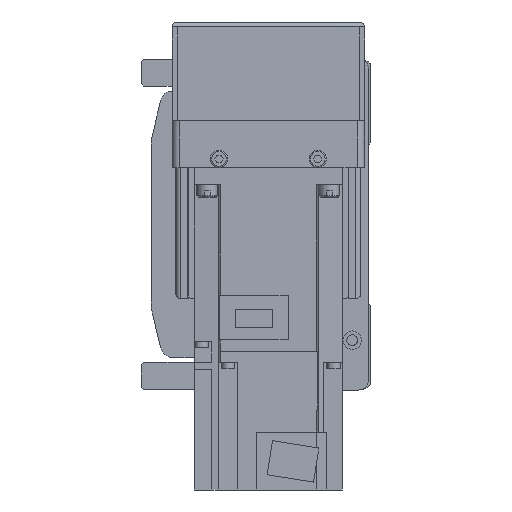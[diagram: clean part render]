
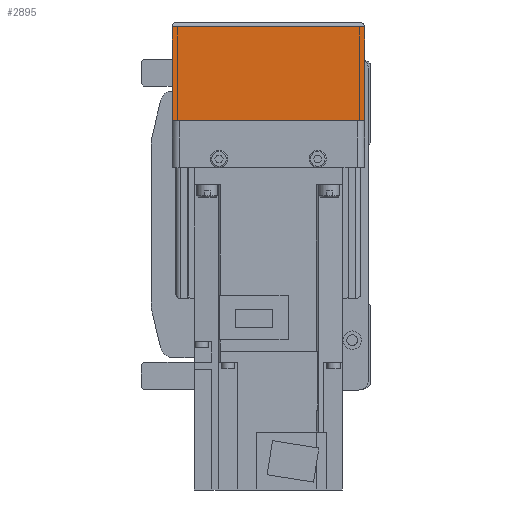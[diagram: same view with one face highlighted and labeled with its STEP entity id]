
A CAD part, left-side view. The second image highlights one B-rep face of the part: STEP entity #2895.
In plain terms, the highlighted planar face has unit normal (-1, 0, 0).
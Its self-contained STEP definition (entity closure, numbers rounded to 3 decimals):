
#2895 = ADVANCED_FACE( '', ( #5988 ), #5989, .F. );
#5988 = FACE_OUTER_BOUND( '', #9120, .T. );
#5989 = PLANE( '', #9121 );
#9120 = EDGE_LOOP( '', ( #17352, #17353, #17354, #17355 ) );
#9121 = AXIS2_PLACEMENT_3D( '', #17356, #17357, #17358 );
#17352 = ORIENTED_EDGE( '', *, *, #19486, .F. );
#17353 = ORIENTED_EDGE( '', *, *, #21020, .F. );
#17354 = ORIENTED_EDGE( '', *, *, #21207, .T. );
#17355 = ORIENTED_EDGE( '', *, *, #20447, .F. );
#17356 = CARTESIAN_POINT( '', ( -158., 36., 7. ) );
#17357 = DIRECTION( '', ( 1., 0., 0. ) );
#17358 = DIRECTION( '', ( 0., 0., -1. ) );
#19486 = EDGE_CURVE( '', #23885, #22619, #23887, .T. );
#20447 = EDGE_CURVE( '', #22619, #25278, #25279, .T. );
#21020 = EDGE_CURVE( '', #25335, #23885, #25976, .T. );
#21207 = EDGE_CURVE( '', #25335, #25278, #26178, .T. );
#22619 = VERTEX_POINT( '', #28276 );
#23885 = VERTEX_POINT( '', #30032 );
#23887 = LINE( '', #30035, #30036 );
#25278 = VERTEX_POINT( '', #32023 );
#25279 = LINE( '', #32024, #32025 );
#25335 = VERTEX_POINT( '', #32102 );
#25976 = LINE( '', #33057, #33058 );
#26178 = LINE( '', #33305, #33306 );
#28276 = CARTESIAN_POINT( '', ( -158., -39., -12.1 ) );
#30032 = CARTESIAN_POINT( '', ( -158., 39., -12.1 ) );
#30035 = CARTESIAN_POINT( '', ( -158., 50., -12.1 ) );
#30036 = VECTOR( '', #35341, 1000. );
#32023 = CARTESIAN_POINT( '', ( -158., -39., -50. ) );
#32024 = CARTESIAN_POINT( '', ( -158., -39., -12.1 ) );
#32025 = VECTOR( '', #36501, 1000. );
#32102 = CARTESIAN_POINT( '', ( -158., 39., -50. ) );
#33057 = CARTESIAN_POINT( '', ( -158., 39., -50. ) );
#33058 = VECTOR( '', #37061, 1000. );
#33305 = CARTESIAN_POINT( '', ( -158., 40., -50. ) );
#33306 = VECTOR( '', #37186, 1000. );
#35341 = DIRECTION( '', ( 0., -1., 0. ) );
#36501 = DIRECTION( '', ( 0., 0., -1. ) );
#37061 = DIRECTION( '', ( 0., 0., 1. ) );
#37186 = DIRECTION( '', ( 0., -1., 0. ) );
